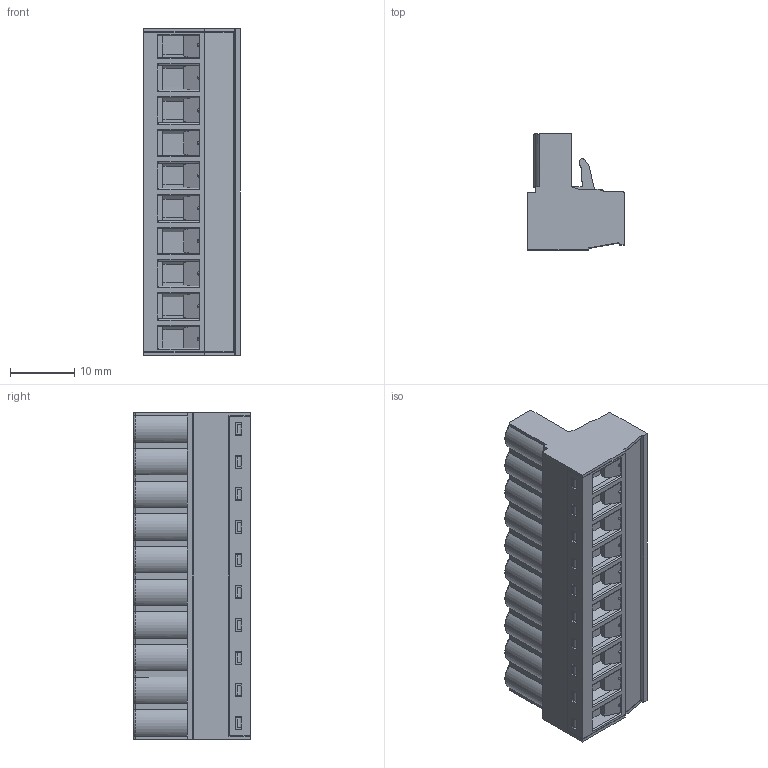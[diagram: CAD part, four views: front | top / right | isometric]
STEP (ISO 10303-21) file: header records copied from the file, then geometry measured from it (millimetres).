
FILE_DESCRIPTION (( 'STEP AP203' ), '1' );
FILE_NAME ('BR8F1-10.STEP', '2020-03-04T01:45:41', ( '' ), ( '' ), 'SwSTEP 2.0', 'SolidWorks 2019', '' );
FILE_SCHEMA (( 'CONFIG_CONTROL_DESIGN' ));
Length unit declared in the file: millimetre
Products named in the file (1): BR8F1-10
Bounding box: 15.05 x 18.1 x 50.8 mm (x, y, z)
Volume: 8081.5 mm3; surface area: 6796.9 mm2
Topology: 1 solids, 1 shells, 1315 faces, 3501 edges, 2248 vertices
Faces by surface type: plane 813, cylinder 322, cone 80, torus 60, sphere 40
Entity records: 41525 total; most frequent: CARTESIAN_POINT 8374, ORIENTED_EDGE 7002, DIRECTION 6723, EDGE_CURVE 3501, LINE 2547, VECTOR 2547, VERTEX_POINT 2248, AXIS2_PLACEMENT_3D 2088
